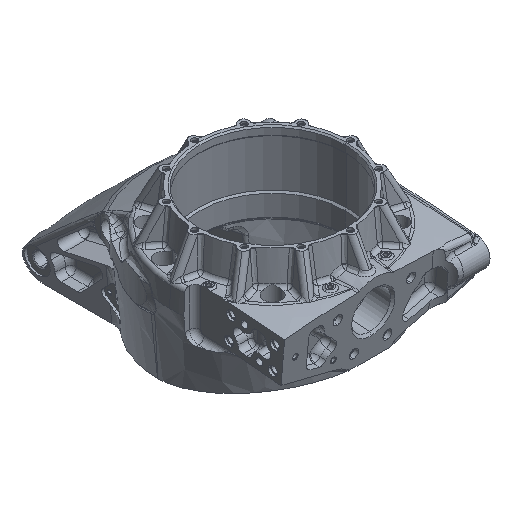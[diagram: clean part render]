
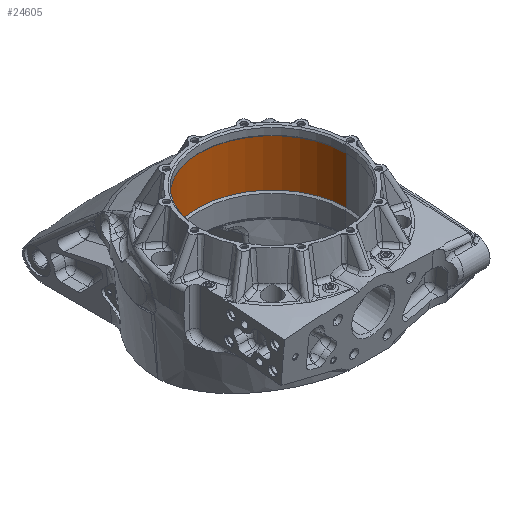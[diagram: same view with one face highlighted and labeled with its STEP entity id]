
A CAD part, isometric view. The second image highlights one B-rep face of the part: STEP entity #24605.
In plain terms, the highlighted cylindrical face has radius 66.75 mm (diameter 133.5 mm), a partial arc.
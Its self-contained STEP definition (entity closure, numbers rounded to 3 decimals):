
#1233 = DIRECTION ( 'NONE',  ( 0., 0., 1. ) ) ;
#6908 = VERTEX_POINT ( 'NONE', #32554 ) ;
#10331 = VERTEX_POINT ( 'NONE', #39595 ) ;
#11107 = DIRECTION ( 'NONE',  ( 1., 0., 0. ) ) ;
#12527 = AXIS2_PLACEMENT_3D ( 'NONE', #43469, #23446, #11107 ) ;
#13050 = DIRECTION ( 'NONE',  ( 0., 0., 1. ) ) ;
#13553 = CYLINDRICAL_SURFACE ( 'NONE', #19848, 66.75 ) ;
#13662 = EDGE_CURVE ( 'NONE', #6908, #37340, #46270, .T. ) ;
#14632 = CARTESIAN_POINT ( 'NONE',  ( 66.75, 0., -8.75 ) ) ;
#16167 = VECTOR ( 'NONE', #22812, 1000. ) ;
#16461 = CIRCLE ( 'NONE', #41663, 66.75 ) ;
#17678 = DIRECTION ( 'NONE',  ( 0., 0., 1. ) ) ;
#19848 = AXIS2_PLACEMENT_3D ( 'NONE', #36979, #1233, #33284 ) ;
#21162 = FACE_OUTER_BOUND ( 'NONE', #41950, .T. ) ;
#22812 = DIRECTION ( 'NONE',  ( 0., 0., 1. ) ) ;
#23446 = DIRECTION ( 'NONE',  ( 0., 0., 1. ) ) ;
#24605 = ADVANCED_FACE ( 'NONE', ( #21162 ), #13553, .F. ) ;
#27142 = ORIENTED_EDGE ( 'NONE', *, *, #42051, .F. ) ;
#28475 = CIRCLE ( 'NONE', #12527, 66.75 ) ;
#32554 = CARTESIAN_POINT ( 'NONE',  ( -66.75, 0., -51. ) ) ;
#33284 = DIRECTION ( 'NONE',  ( 1., 0., 0. ) ) ;
#33392 = VECTOR ( 'NONE', #17678, 1000. ) ;
#34626 = VERTEX_POINT ( 'NONE', #14632 ) ;
#35696 = CARTESIAN_POINT ( 'NONE',  ( 0., 0., -51. ) ) ;
#36188 = ORIENTED_EDGE ( 'NONE', *, *, #39892, .T. ) ;
#36979 = CARTESIAN_POINT ( 'NONE',  ( 0., 0., 0. ) ) ;
#37340 = VERTEX_POINT ( 'NONE', #49580 ) ;
#37483 = ORIENTED_EDGE ( 'NONE', *, *, #43148, .T. ) ;
#38630 = CARTESIAN_POINT ( 'NONE',  ( -66.75, 0., 0. ) ) ;
#39595 = CARTESIAN_POINT ( 'NONE',  ( 66.75, 0., -51. ) ) ;
#39892 = EDGE_CURVE ( 'NONE', #34626, #37340, #28475, .T. ) ;
#41663 = AXIS2_PLACEMENT_3D ( 'NONE', #35696, #13050, #48289 ) ;
#41950 = EDGE_LOOP ( 'NONE', ( #51049, #27142, #37483, #36188 ) ) ;
#42051 = EDGE_CURVE ( 'NONE', #10331, #6908, #16461, .T. ) ;
#43148 = EDGE_CURVE ( 'NONE', #10331, #34626, #45841, .T. ) ;
#43469 = CARTESIAN_POINT ( 'NONE',  ( 0., 0., -8.75 ) ) ;
#45841 = LINE ( 'NONE', #50564, #33392 ) ;
#46270 = LINE ( 'NONE', #38630, #16167 ) ;
#48289 = DIRECTION ( 'NONE',  ( 1., 0., 0. ) ) ;
#49580 = CARTESIAN_POINT ( 'NONE',  ( -66.75, 0., -8.75 ) ) ;
#50564 = CARTESIAN_POINT ( 'NONE',  ( 66.75, 0., 0. ) ) ;
#51049 = ORIENTED_EDGE ( 'NONE', *, *, #13662, .F. ) ;
